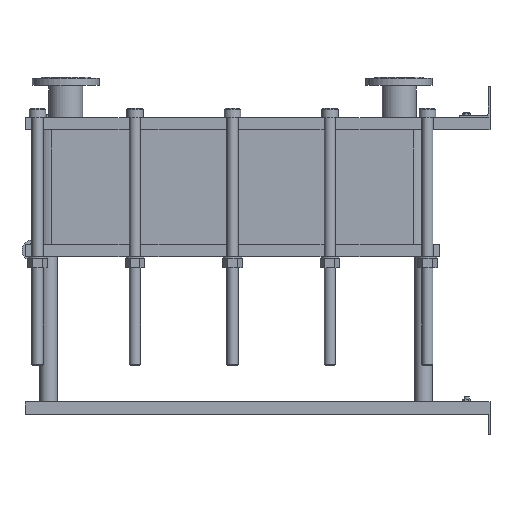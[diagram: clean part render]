
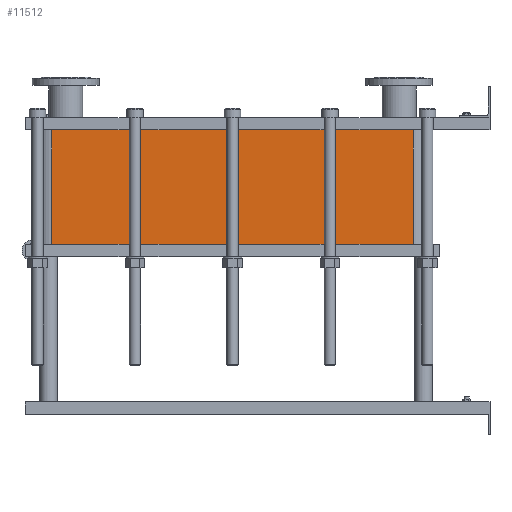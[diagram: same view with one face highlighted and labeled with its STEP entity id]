
A CAD part, left-side view. The second image highlights one B-rep face of the part: STEP entity #11512.
In plain terms, the highlighted planar face has unit normal (-1, 0, 0).
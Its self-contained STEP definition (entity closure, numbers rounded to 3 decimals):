
#1129=LINE('',#23232,#2102);
#1130=LINE('',#23236,#2103);
#1131=LINE('',#23238,#2104);
#1132=LINE('',#23239,#2105);
#2102=VECTOR('',#15887,10.);
#2103=VECTOR('',#15892,10.);
#2104=VECTOR('',#15893,10.);
#2105=VECTOR('',#15894,10.);
#3267=FACE_OUTER_BOUND('',#4093,.T.);
#4093=EDGE_LOOP('',(#10103,#10104,#10105,#10106));
#5642=VERTEX_POINT('',#23229);
#5643=VERTEX_POINT('',#23231);
#5644=VERTEX_POINT('',#23235);
#5645=VERTEX_POINT('',#23237);
#7159=EDGE_CURVE('',#5643,#5642,#1129,.T.);
#7161=EDGE_CURVE('',#5642,#5644,#1130,.T.);
#7162=EDGE_CURVE('',#5645,#5644,#1131,.T.);
#7163=EDGE_CURVE('',#5645,#5643,#1132,.T.);
#10103=ORIENTED_EDGE('',*,*,#7161,.T.);
#10104=ORIENTED_EDGE('',*,*,#7162,.F.);
#10105=ORIENTED_EDGE('',*,*,#7163,.T.);
#10106=ORIENTED_EDGE('',*,*,#7159,.T.);
#10857=PLANE('',#12751);
#11512=ADVANCED_FACE('',(#3267),#10857,.T.);
#12751=AXIS2_PLACEMENT_3D('',#23234,#15890,#15891);
#15887=DIRECTION('',(0.,0.,-1.));
#15890=DIRECTION('center_axis',(-1.,0.,0.));
#15891=DIRECTION('ref_axis',(0.,1.,0.));
#15892=DIRECTION('',(0.,-1.,0.));
#15893=DIRECTION('',(0.,0.,-1.));
#15894=DIRECTION('',(0.,1.,0.));
#23229=CARTESIAN_POINT('',(-200.,1414.,-369.15));
#23231=CARTESIAN_POINT('',(-200.,1414.,0.));
#23232=CARTESIAN_POINT('',(-200.,1414.,0.));
#23234=CARTESIAN_POINT('Origin',(-200.,248.,0.));
#23235=CARTESIAN_POINT('',(-200.,248.,-369.15));
#23236=CARTESIAN_POINT('',(-200.,539.5,-369.15));
#23237=CARTESIAN_POINT('',(-200.,248.,0.));
#23238=CARTESIAN_POINT('',(-200.,248.,0.));
#23239=CARTESIAN_POINT('',(-200.,248.,0.));
